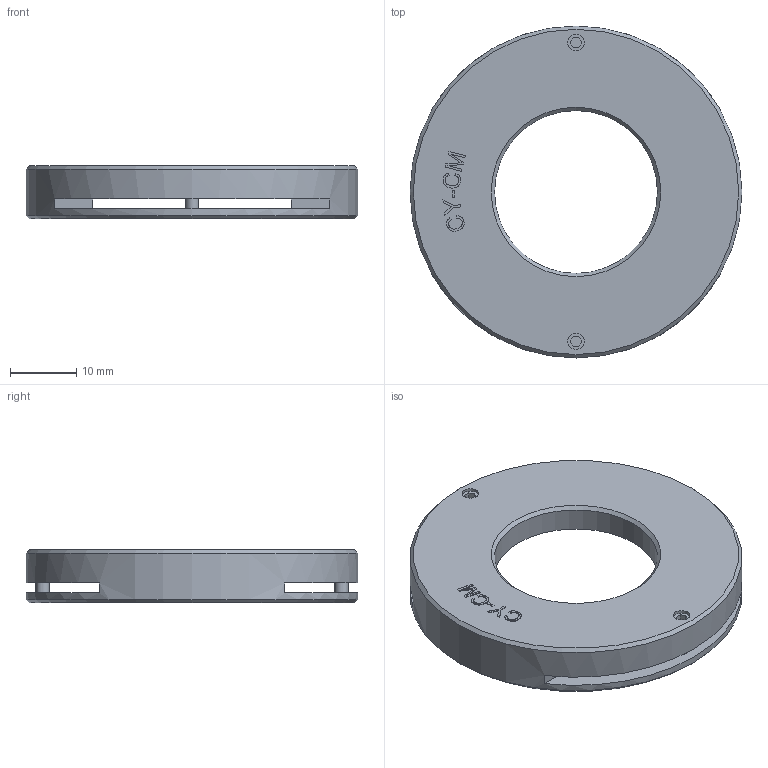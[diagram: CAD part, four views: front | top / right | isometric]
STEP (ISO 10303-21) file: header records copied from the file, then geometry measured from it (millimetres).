
FILE_DESCRIPTION(/* description */ ('CY-CM'),/* implementation_level */ '2;1');
FILE_NAME(/* name */ 'C:\Optronis\Inv\Modelle 3D\1200-3D\CY-CM.stp',/* time_stamp */ '2019-12-09T15:20:01+01:00',/* author */ ('Albert Nuber'),/* organization */ ('Optronis GmbH'),/* preprocessor_version */ 'ST-DEVELOPER v18',/* originating_system */ 'Autodesk Inventor 2020',/* authorisation */ '');
FILE_SCHEMA (('AUTOMOTIVE_DESIGN { 1 0 10303 214 3 1 1 }'));
Length unit declared in the file: millimetre
Products named in the file (1): CY-CM
Bounding box: 50 x 50 x 8.1 mm (x, y, z)
Surface area: 5610.4 mm2 (no closed solid volume)
Topology: 0 solids, 5 shells, 176 faces, 514 edges, 346 vertices
Faces by surface type: plane 121, bspline 43, cylinder 7, cone 5
Full cylindrical faces by diameter (mm): 2 x2, 2.459 x2, 24.536 x1, 41 x1, 50 x1
Entity records: 6167 total; most frequent: CARTESIAN_POINT 1548, ORIENTED_EDGE 974, DIRECTION 728, EDGE_CURVE 514, LINE 384, VECTOR 384, VERTEX_POINT 346, EDGE_LOOP 200
